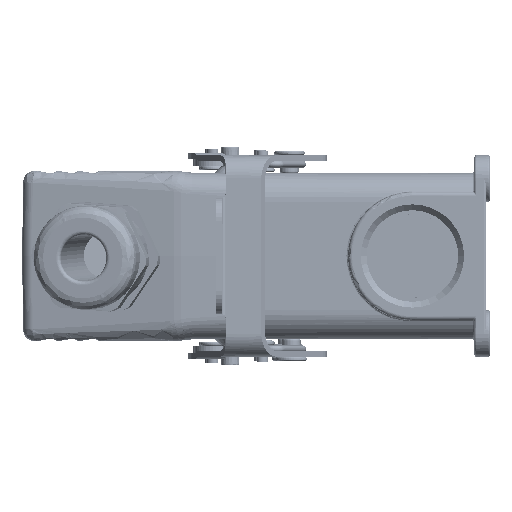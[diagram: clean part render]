
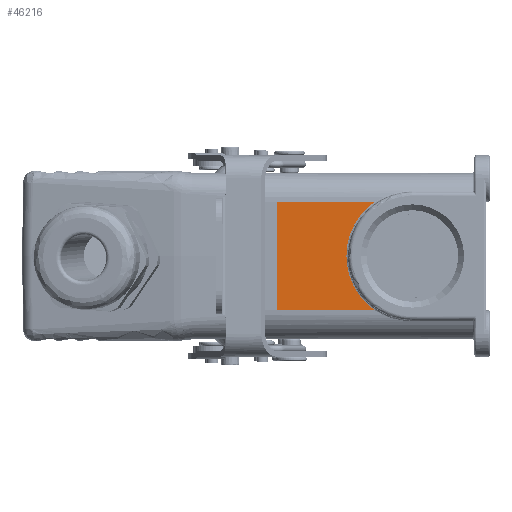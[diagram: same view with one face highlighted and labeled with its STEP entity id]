
A CAD part, left-side view. The second image highlights one B-rep face of the part: STEP entity #46216.
In plain terms, the highlighted planar face has unit normal (-1, 0, 0) as drawn and (0, 0, -1) by its records, which use the part's own axes.
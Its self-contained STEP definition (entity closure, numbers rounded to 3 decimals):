
#3204 = LINE ( 'NONE', #141872, #149223 ) ;
#7392 = CARTESIAN_POINT ( 'NONE',  ( 1.377, 36., -36.5 ) ) ;
#11864 = CARTESIAN_POINT ( 'NONE',  ( 11.788, 31.253, -36.5 ) ) ;
#13500 = CARTESIAN_POINT ( 'NONE',  ( 14., 54., -36.5 ) ) ;
#15945 = DIRECTION ( 'NONE',  ( 0., -1., 0. ) ) ;
#17680 = EDGE_CURVE ( 'NONE', #190408, #58075, #83250, .T. ) ;
#19769 = VERTEX_POINT ( 'NONE', #36854 ) ;
#25493 = CARTESIAN_POINT ( 'NONE',  ( 6.689, 34.689, -36.5 ) ) ;
#28868 = CARTESIAN_POINT ( 'NONE',  ( 12.973, 30.023, -36.5 ) ) ;
#31837 = FACE_OUTER_BOUND ( 'NONE', #207152, .T. ) ;
#33126 = CARTESIAN_POINT ( 'NONE',  ( 14., 0., -36.5 ) ) ;
#36506 = DIRECTION ( 'NONE',  ( 0., -1., 0. ) ) ;
#36854 = CARTESIAN_POINT ( 'NONE',  ( -14., 54., -36.5 ) ) ;
#44807 = CARTESIAN_POINT ( 'NONE',  ( 14., 28.644, -36.5 ) ) ;
#46216 = ADVANCED_FACE ( 'NONE', ( #31837 ), #48911, .T. ) ;
#48911 = PLANE ( 'NONE',  #192456 ) ;
#58075 = VERTEX_POINT ( 'NONE', #96767 ) ;
#65317 = LINE ( 'NONE', #152913, #141615 ) ;
#80074 = CARTESIAN_POINT ( 'NONE',  ( 9.127, 33.408, -36.5 ) ) ;
#81220 = CARTESIAN_POINT ( 'NONE',  ( 2.736, 35.835, -36.5 ) ) ;
#83250 = LINE ( 'NONE', #33126, #199805 ) ;
#84765 = ORIENTED_EDGE ( 'NONE', *, *, #163708, .T. ) ;
#91330 = ORIENTED_EDGE ( 'NONE', *, *, #17680, .T. ) ;
#93794 = CARTESIAN_POINT ( 'NONE',  ( -9.396, 33.197, -36.5 ) ) ;
#94914 = CARTESIAN_POINT ( 'NONE',  ( -10.761, 32.165, -36.5 ) ) ;
#96767 = CARTESIAN_POINT ( 'NONE',  ( 14., 28.644, -36.5 ) ) ;
#98242 = CARTESIAN_POINT ( 'NONE',  ( 5.409, 35.175, -36.5 ) ) ;
#100471 = CARTESIAN_POINT ( 'NONE',  ( -13.214, 29.782, -36.5 ) ) ;
#114166 = CARTESIAN_POINT ( 'NONE',  ( 12.271, 30.77, -36.5 ) ) ;
#116426 = CARTESIAN_POINT ( 'NONE',  ( 10.252, 32.63, -36.5 ) ) ;
#118292 = DIRECTION ( 'NONE',  ( 0., 0., -1. ) ) ;
#120907 = CARTESIAN_POINT ( 'NONE',  ( -12.309, 30.806, -36.5 ) ) ;
#128110 = CARTESIAN_POINT ( 'NONE',  ( -14., 28.644, -36.5 ) ) ;
#132081 = EDGE_CURVE ( 'NONE', #190408, #19769, #65317, .T. ) ;
#133516 = CARTESIAN_POINT ( 'NONE',  ( -5.409, 35.175, -36.5 ) ) ;
#139093 = CARTESIAN_POINT ( 'NONE',  ( -11.026, 31.943, -36.5 ) ) ;
#141615 = VECTOR ( 'NONE', #221201, 1000. ) ;
#141872 = CARTESIAN_POINT ( 'NONE',  ( -14., 0., -36.5 ) ) ;
#149223 = VECTOR ( 'NONE', #210177, 1000. ) ;
#150592 = CARTESIAN_POINT ( 'NONE',  ( -1.377, 36., -36.5 ) ) ;
#152226 = B_SPLINE_CURVE_WITH_KNOTS ( 'NONE', 3,
 ( #44807, #181376, #28868, #114166, #11864, #167650, #116426, #80074, #25493, #98242, #81220, #7392, #150592, #220005, #133516, #202923, #185879, #93794, #163156, #94914, #139093, #120907, #100471, #169873 ),
 .UNSPECIFIED., .F., .F.,
 ( 4, 1, 2, 2, 2, 2, 2, 2, 2, 1, 2, 2, 4 ),
 ( 0., 0.063, 0.094, 0.125, 0.25, 0.375, 0.5, 0.625, 0.75, 0.813, 0.844, 0.875, 1. ),
 .UNSPECIFIED. ) ;
#152913 = CARTESIAN_POINT ( 'NONE',  ( 0., 54., -36.5 ) ) ;
#156915 = CARTESIAN_POINT ( 'NONE',  ( 21.5, 0., -36.5 ) ) ;
#163005 = ORIENTED_EDGE ( 'NONE', *, *, #198801, .F. ) ;
#163156 = CARTESIAN_POINT ( 'NONE',  ( -10.222, 32.588, -36.5 ) ) ;
#163708 = EDGE_CURVE ( 'NONE', #58075, #203782, #152226, .T. ) ;
#167650 = CARTESIAN_POINT ( 'NONE',  ( 11.541, 31.487, -36.5 ) ) ;
#169873 = CARTESIAN_POINT ( 'NONE',  ( -14., 28.644, -36.5 ) ) ;
#181376 = CARTESIAN_POINT ( 'NONE',  ( 13.607, 29.212, -36.5 ) ) ;
#185879 = CARTESIAN_POINT ( 'NONE',  ( -8.517, 33.729, -36.5 ) ) ;
#190408 = VERTEX_POINT ( 'NONE', #13500 ) ;
#192456 = AXIS2_PLACEMENT_3D ( 'NONE', #156915, #118292, #15945 ) ;
#198801 = EDGE_CURVE ( 'NONE', #19769, #203782, #3204, .T. ) ;
#199805 = VECTOR ( 'NONE', #36506, 1000. ) ;
#202923 = CARTESIAN_POINT ( 'NONE',  ( -6.689, 34.689, -36.5 ) ) ;
#203782 = VERTEX_POINT ( 'NONE', #128110 ) ;
#207152 = EDGE_LOOP ( 'NONE', ( #163005, #221020, #91330, #84765 ) ) ;
#210177 = DIRECTION ( 'NONE',  ( 0., -1., 0. ) ) ;
#220005 = CARTESIAN_POINT ( 'NONE',  ( -2.736, 35.835, -36.5 ) ) ;
#221020 = ORIENTED_EDGE ( 'NONE', *, *, #132081, .F. ) ;
#221201 = DIRECTION ( 'NONE',  ( -1., 0., 0. ) ) ;
